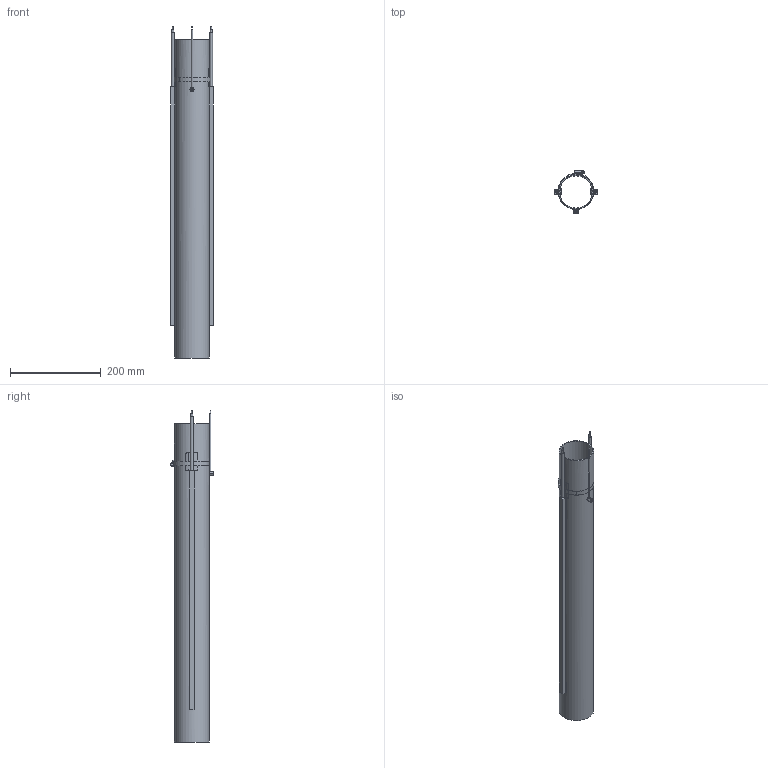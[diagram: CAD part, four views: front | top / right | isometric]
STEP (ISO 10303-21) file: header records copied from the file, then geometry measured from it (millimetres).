
FILE_DESCRIPTION(/* description */ (''),/* implementation_level */ '2;1');
FILE_NAME(/* name */ 'CONVEYOSTAT76,1_3D',/* time_stamp */ '2015-03-05T14:50:41+01:00',/* author */ (''),/* organization */ (''),/* preprocessor_version */ 'ST-DEVELOPER v15.7',/* originating_system */ 'HiCAD 2014 1902.2 Build 487',/* authorisation */ '');
FILE_SCHEMA (('AUTOMOTIVE_DESIGN { 1 0 10303 214 1 1 1 1 }'));
Length unit declared in the file: millimetre
Products named in the file (4): Root; O.D. 76,1_Assembly; O.D. 76,1_5; MB13SF
Assembly tree (3 placements, depth 4):
  Root
    O.D. 76,1_Assembly
      O.D. 76,1_5
        MB13SF
Bounding box: 94.06 x 94.23 x 730 mm (x, y, z)
Volume: 450027.4 mm3; surface area: 424664.6 mm2
Topology: 8 solids, 8 shells, 319 faces, 937 edges, 617 vertices
Faces by surface type: plane 209, cylinder 85, cone 25
Full cylindrical faces by diameter (mm): 1 x2, 1.42 x8, 2.4 x1, 2.5 x2, 3.141 x2, 4 x3, 4.019 x2, 4.6 x2, 4.8 x2, 5.3 x2, 6 x2, 72.1 x1, 76.1 x1
Entity records: 29467 total; most frequent: CARTESIAN_POINT 12944, PRESENTATION_STYLE_ASSIGNMENT 1917, OVER_RIDING_STYLED_ITEM 1909, DRAUGHTING_PRE_DEFINED_CURVE_FONT 1698, CURVE_STYLE 1698, ORIENTED_EDGE 1698, DIRECTION 1683, EDGE_CURVE 849
